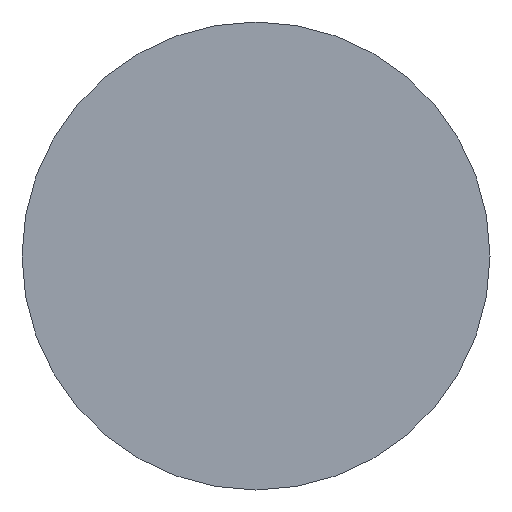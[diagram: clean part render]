
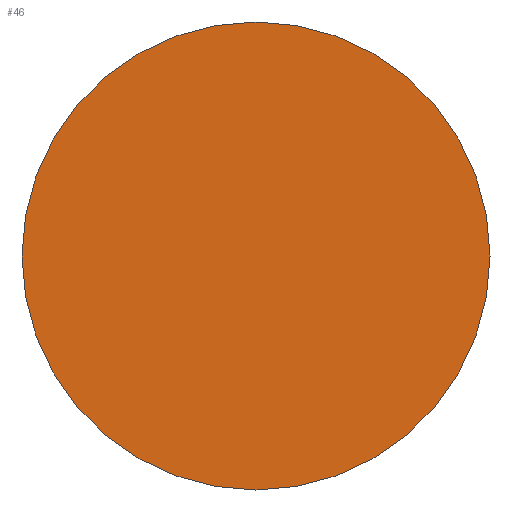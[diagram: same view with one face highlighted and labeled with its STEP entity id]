
A CAD part, left-side view. The second image highlights one B-rep face of the part: STEP entity #46.
In plain terms, the highlighted planar face has unit normal (-1, 0, 0).
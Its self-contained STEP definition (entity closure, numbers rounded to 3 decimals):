
#2 = ORIENTED_EDGE ( 'NONE', *, *, #31, .T. ) ;
#21 = EDGE_LOOP ( 'NONE', ( #2, #74 ) ) ;
#31 = EDGE_CURVE ( 'NONE', #194, #378, #217, .T. ) ;
#46 = ADVANCED_FACE ( 'NONE', ( #86 ), #87, .F. ) ;
#74 = ORIENTED_EDGE ( 'NONE', *, *, #379, .T. ) ;
#86 = FACE_OUTER_BOUND ( 'NONE', #21, .T. ) ;
#87 = PLANE ( 'NONE',  #88 ) ;
#88 = AXIS2_PLACEMENT_3D ( 'NONE', #89, #90, #91 ) ;
#89 = CARTESIAN_POINT ( 'NONE',  ( 0., 12.5, 0. ) ) ;
#90 = DIRECTION ( 'NONE',  ( 1., 0., 0. ) ) ;
#91 = DIRECTION ( 'NONE',  ( 0., 0., -1. ) ) ;
#114 = CARTESIAN_POINT ( 'NONE',  ( 0., 0., -12.5 ) ) ;
#115 = CIRCLE ( 'NONE', #116, 12.5 ) ;
#116 = AXIS2_PLACEMENT_3D ( 'NONE', #117, #118, #119 ) ;
#117 = CARTESIAN_POINT ( 'NONE',  ( 0., 0., 0. ) ) ;
#118 = DIRECTION ( 'NONE',  ( -1., 0., 0. ) ) ;
#119 = DIRECTION ( 'NONE',  ( 0., 0., 1. ) ) ;
#194 = VERTEX_POINT ( 'NONE', #254 ) ;
#217 = CIRCLE ( 'NONE', #218, 12.5 ) ;
#218 = AXIS2_PLACEMENT_3D ( 'NONE', #219, #220, #221 ) ;
#219 = CARTESIAN_POINT ( 'NONE',  ( 0., 0., 0. ) ) ;
#220 = DIRECTION ( 'NONE',  ( -1., 0., 0. ) ) ;
#221 = DIRECTION ( 'NONE',  ( 0., 0., 1. ) ) ;
#254 = CARTESIAN_POINT ( 'NONE',  ( 0., 0., 12.5 ) ) ;
#378 = VERTEX_POINT ( 'NONE', #114 ) ;
#379 = EDGE_CURVE ( 'NONE', #378, #194, #115, .T. ) ;
